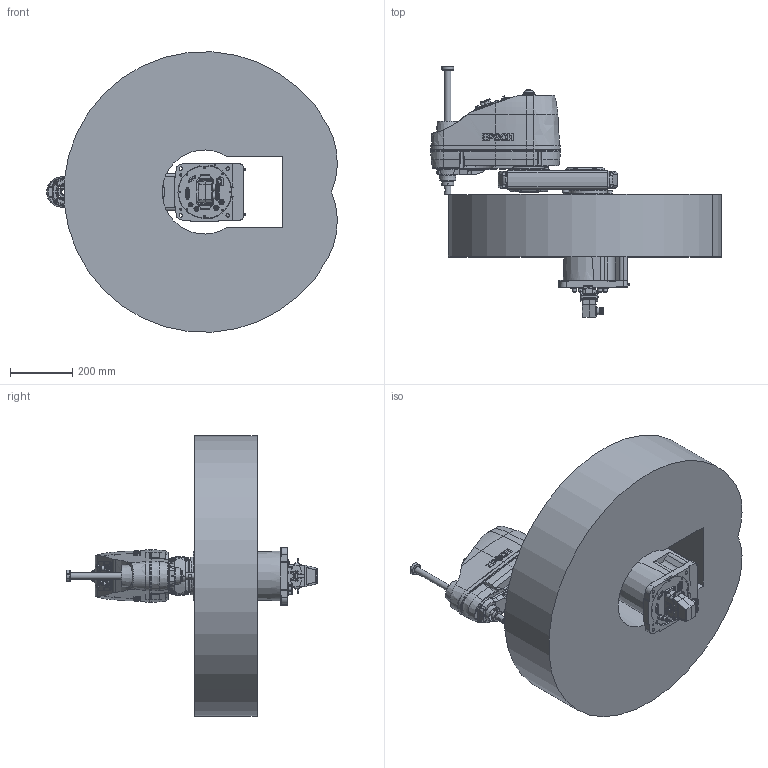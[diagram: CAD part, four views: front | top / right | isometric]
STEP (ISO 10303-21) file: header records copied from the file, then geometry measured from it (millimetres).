
FILE_DESCRIPTION( ( 'STEP AP214' ), '1' );
FILE_NAME( 'C:/Users/9607552/Desktop/GX8-B452SB_langel.stp', '2023-07-07T01:53:24', ( '' ), ( '' ), ' ', 'PARTsolutions', ' ' );
FILE_SCHEMA( ( 'AUTOMOTIVE_DESIGN { 1 0 10303 214 1 1 1 1 }' ) );
Length unit declared in the file: millimetre
Products named in the file (9): GX8-B452SB-AW; _B452SBbasegx8; _B452Sj1arm; _GX8-B452SBj1arm2; _GX8-B452SBj1arm1; _B452S_J2; _B452SZA; _Angle-B; _GX8-13-B_WS
Assembly tree (10 placements, depth 2):
  GX8-B452SB-AW
    _B452SBbasegx8
    _B452Sj1arm
    _GX8-B452SBj1arm2  x2
    _GX8-B452SBj1arm1  x2
    _B452S_J2
    _B452SZA
    _Angle-B
    _GX8-13-B_WS
Bounding box: 931.38 x 803.1 x 898.63 mm (x, y, z)
Volume: 130311708.5 mm3; surface area: 2942185 mm2
Topology: 10 solids, 11 shells, 2923 faces, 7185 edges, 4700 vertices
Faces by surface type: plane 1472, cylinder 936, cone 354, torus 118, bspline 37, sphere 6
Full cylindrical faces by diameter (mm): 1 x48, 1.18 x55, 2.459 x12, 3 x32, 3.242 x20, 3.3 x5, 3.9 x4, 4 x4, 4.2 x6, 4.5 x4, 4.8 x5, 4.917 x2, 5.34 x4, 5.5 x17, 6 x1, 6.2 x2, 6.647 x4, 6.8 x2, 7 x48, 8 x5, 8.5 x6, 9 x24, 10 x18, 11 x4, 11.2 x7, 11.5 x1, 12 x5, 12.25 x1, 13 x3, 13.2 x12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
Entity records: 104780 total; most frequent: CARTESIAN_POINT 20200, DIRECTION 12839, ORIENTED_EDGE 11952, EDGE_CURVE 5976, AXIS2_PLACEMENT_3D 4945, VERTEX_POINT 4303, EDGE_LOOP 3852, FACE_OUTER_BOUND 3213
